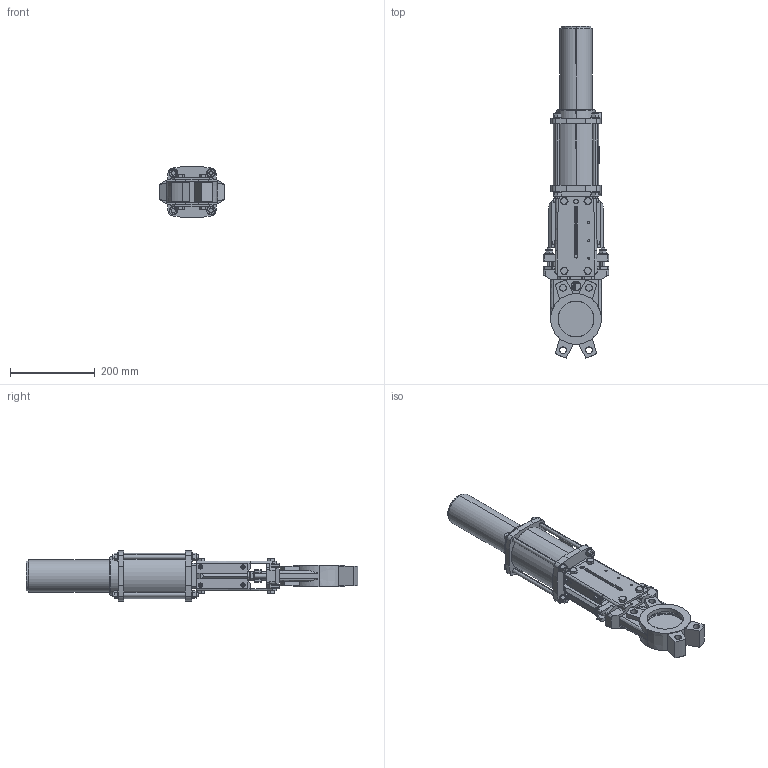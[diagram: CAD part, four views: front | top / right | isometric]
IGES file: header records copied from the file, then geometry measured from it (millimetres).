
Start section: SolidWorks IGES file using analytic representation for surfaces
Global section: file name: D:\part\3D Projects\VG-SINGLE ACTING CYLINDER N (DN50-300)\VG P N DN80\VG P N DN80.IGS; native system: SolidWorks 2009; preprocessor: SolidWorks 2009; author: zhixin.zheng; date: 100331.110701; units: millimetre
Bounding box: 154 x 785.17 x 120 mm (x, y, z)
Surface area: 571294.2 mm2 (no closed solid volume)
Topology: 0 solids, 0 shells, 1072 faces, 12397 edges, 12397 vertices
Faces by surface type: bspline 624, revolution 448
